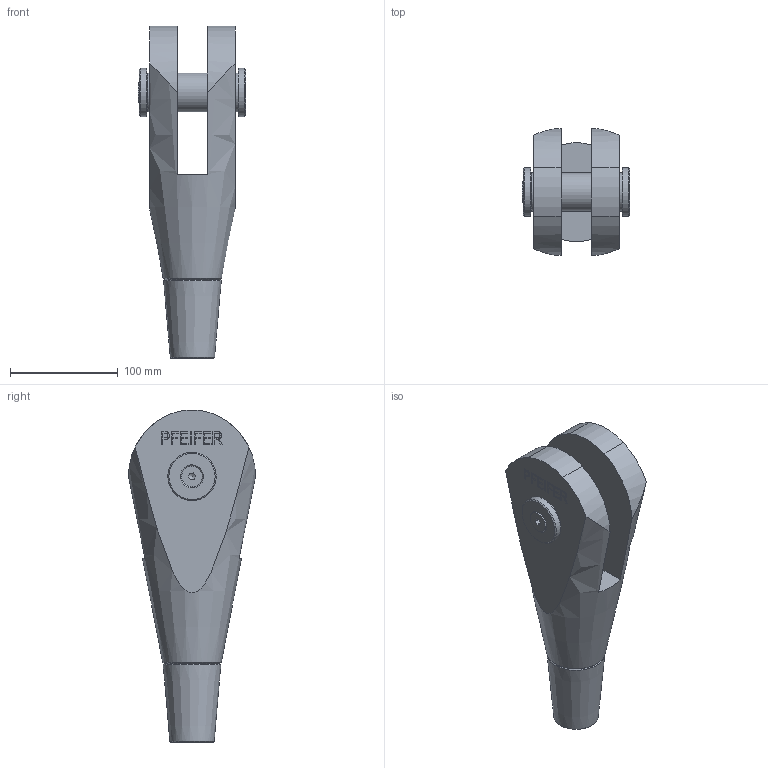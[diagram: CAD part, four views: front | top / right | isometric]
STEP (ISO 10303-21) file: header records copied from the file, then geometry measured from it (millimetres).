
FILE_DESCRIPTION(/* description */ (''),/* implementation_level */ '2;1');
FILE_NAME(/* name */ 'C:\Vault_WS\Designs\520-036-GAK.stp',/* time_stamp */ '2020-06-25T07:55:11+02:00',/* author */ ('schwarz'),/* organization */ (''),/* preprocessor_version */ 'ST-DEVELOPER v16.1',/* originating_system */ 'Autodesk Inventor 2016',/* authorisation */ '');
FILE_SCHEMA (('AUTOMOTIVE_DESIGN { 1 0 10303 214 3 1 1 }'));
Length unit declared in the file: centimetre
Products named in the file (1): 520-036-GAK-KMU-Kunde
Bounding box: 99.75 x 118.26 x 308.8 mm (x, y, z)
Volume: 1166596.5 mm3; surface area: 130992.9 mm2
Topology: 2 solids, 3 shells, 186 faces, 482 edges, 319 vertices
Faces by surface type: plane 136, bspline 21, cylinder 16, cone 13
Full cylindrical faces by diameter (mm): 8.376 x1, 10 x1, 11 x1, 19.22 x1, 36 x1, 38 x1, 39 x2, 45 x2
Entity records: 5768 total; most frequent: CARTESIAN_POINT 1272, ORIENTED_EDGE 900, DIRECTION 768, EDGE_CURVE 450, LINE 348, VECTOR 348, VERTEX_POINT 310, EDGE_LOOP 230
